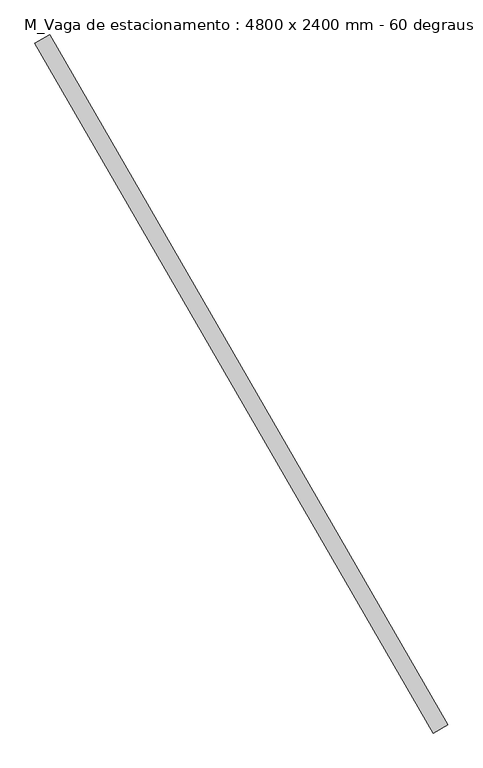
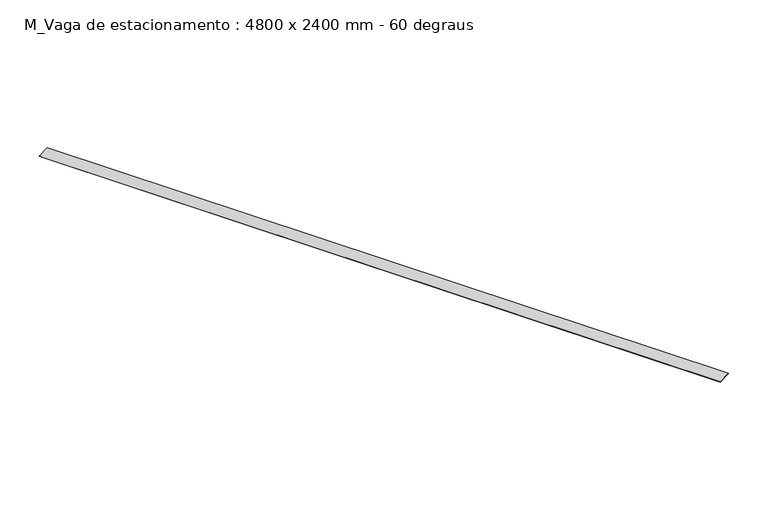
"""IFC4 building model written with IfcOpenShell, lengths in millimetres: proxy geometry, M_Vaga de estacionamento : 4800 x 2400 mm - 60 degraus."""

import ifcopenshell
import ifcopenshell.guid

model = None  # the IFC model being written
_history = None  # IfcOwnerHistory: only IFC2X3 demands one
_inside = {}  # id of a spatial element -> (the spatial element, [elements in it])
_under = {}  # id of a project, library or spatial element -> (it, [spatial elements below it])
_declared = {}  # id of a project -> (the project, [libraries it declares])
_typed = {}  # id of a type object -> (the type object, [elements of that type])
_made_of = {}  # id of a material, layer set ... -> (it, [elements and type objects made of it])


def new_model(schema):
    """Start an empty IFC model of exactly this schema.

    Asked for "IFC4X3", IfcOpenShell would pick the latest addendum, in which some entities
    have other attributes; the version numbers below select the first issue.
    IFC2X3 requires an IfcOwnerHistory on every rooted entity: one is made here for all.
    """
    global model, _history
    if schema == "IFC4X3":
        model = ifcopenshell.file(schema_version=(4, 3, 0, 0))
    else:
        model = ifcopenshell.file(schema=schema)
    _inside.clear()
    _under.clear()
    _declared.clear()
    _typed.clear()
    _made_of.clear()
    _history = None
    if model.schema == "IFC2X3":
        org = make("IfcOrganization", Name="unknown")
        user = make(
            "IfcPersonAndOrganization",
            ThePerson=make("IfcPerson", FamilyName="unknown"),
            TheOrganization=org,
        )
        app = make(
            "IfcApplication",
            ApplicationDeveloper=org,
            Version="unknown",
            ApplicationFullName="unknown",
            ApplicationIdentifier="unknown",
        )
        _history = make(
            "IfcOwnerHistory",
            OwningUser=user,
            OwningApplication=app,
            ChangeAction="ADDED",
            CreationDate=0,
        )
    return model


def make(cls, **values):
    """One entity of the class cls with the attributes given. An attribute that is None is left unset."""
    return model.create_entity(
        cls, **{name: value for name, value in values.items() if value is not None}
    )


def rooted(cls, **values):
    """An entity with a GlobalId (a new one), such as an element, a storey or a relation."""
    return make(cls, GlobalId=ifcopenshell.guid.new(), OwnerHistory=_history, **values)


def si_unit(unit_type, name, prefix=None):
    """IfcSIUnit, for example si_unit("LENGTHUNIT", "METRE", prefix="MILLI")."""
    return make("IfcSIUnit", UnitType=unit_type, Prefix=prefix, Name=name)


def assignment(units):
    """IfcUnitAssignment: the units of a project."""
    return None if units is None else make("IfcUnitAssignment", Units=units)


def point(xyz):
    """IfcCartesianPoint."""
    return None if xyz is None else make("IfcCartesianPoint", Coordinates=xyz)


def direction(xyz):
    """IfcDirection."""
    return None if xyz is None else make("IfcDirection", DirectionRatios=xyz)


def frame(location, z_axis=None, x_axis=None):
    """IfcAxis2Placement3D, a coordinate frame: its origin and axes. An axis left out is left unset."""
    return make(
        "IfcAxis2Placement3D",
        Location=point(location),
        Axis=direction(z_axis),
        RefDirection=direction(x_axis),
    )


def origin():
    """The frame at (0, 0, 0) with its axes left unset."""
    return frame((0.0, 0.0, 0.0))


def origin_with_axes():
    """The frame at (0, 0, 0) with the z axis (0, 0, 1) and the x axis (1, 0, 0) written out."""
    return frame((0.0, 0.0, 0.0), z_axis=(0.0, 0.0, 1.0), x_axis=(1.0, 0.0, 0.0))


def place(relative_to, where):
    """IfcLocalPlacement: puts the frame where relative to a parent placement (None: the world)."""
    return make(
        "IfcLocalPlacement", PlacementRelTo=relative_to, RelativePlacement=where
    )


def context(
    kind, dimensions, precision=None, world=None, true_north=None, identifier=None
):
    """IfcGeometricRepresentationContext, for example the 3D "Model" context."""
    return make(
        "IfcGeometricRepresentationContext",
        ContextIdentifier=identifier,
        ContextType=kind,
        CoordinateSpaceDimension=dimensions,
        Precision=precision,
        WorldCoordinateSystem=world,
        TrueNorth=true_north,
    )


def project(units=None, contexts=None):
    """IfcProject with its units and contexts."""
    return rooted(
        "IfcProject",
        Name="project",
        RepresentationContexts=contexts,
        UnitsInContext=assignment(units),
    )


def spatial(cls, under=None, at=None, **own):
    """A site, building, storey or space (cls), placed at a placement, below another one or the project."""
    s = rooted(cls, ObjectPlacement=at, **own)
    if under is not None:
        _under.setdefault(under.id(), (under, []))[1].append(s)
    return s


def polyline(points):
    """IfcPolyline through the points."""
    return make("IfcPolyline", Points=[point(p) for p in points])


def outline(outer, holes=None, kind="AREA"):
    """IfcArbitraryClosedProfileDef: a profile drawn as a closed curve; with holes, ...WithVoids."""
    if holes is None:
        return make("IfcArbitraryClosedProfileDef", ProfileType=kind, OuterCurve=outer)
    return make(
        "IfcArbitraryProfileDefWithVoids",
        ProfileType=kind,
        OuterCurve=outer,
        InnerCurves=holes,
    )


def extrude(swept, where, along, depth):
    """IfcExtrudedAreaSolid: the profile swept, set in the frame where, extruded along a direction by depth."""
    return make(
        "IfcExtrudedAreaSolid",
        SweptArea=swept,
        Position=where,
        ExtrudedDirection=direction(along),
        Depth=depth,
    )


def shape(context_of_items, identifier, shape_type, items):
    """IfcShapeRepresentation: the items that make up one representation, for example the "Body"."""
    return make(
        "IfcShapeRepresentation",
        ContextOfItems=context_of_items,
        RepresentationIdentifier=identifier,
        RepresentationType=shape_type,
        Items=items,
    )


def source(mapping_origin, context_of_items, identifier, shape_type, items):
    """IfcRepresentationMap: a shape defined once, which mapped items show again and again."""
    return make(
        "IfcRepresentationMap",
        MappingOrigin=mapping_origin,
        MappedRepresentation=shape(context_of_items, identifier, shape_type, items),
    )


def transform(
    local_origin,
    x_axis=None,
    y_axis=None,
    z_axis=None,
    scale=None,
    scale2=None,
    scale3=None,
    uniform=True,
):
    """IfcCartesianTransformationOperator3D, or its non-uniform kind. x_axis, y_axis, z_axis: its Axis1, 2, 3."""
    if uniform:
        return make(
            "IfcCartesianTransformationOperator3D",
            Axis1=direction(x_axis),
            Axis2=direction(y_axis),
            LocalOrigin=point(local_origin),
            Scale=scale,
            Axis3=direction(z_axis),
        )
    return make(
        "IfcCartesianTransformationOperator3DnonUniform",
        Axis1=direction(x_axis),
        Axis2=direction(y_axis),
        LocalOrigin=point(local_origin),
        Scale=scale,
        Axis3=direction(z_axis),
        Scale2=scale2,
        Scale3=scale3,
    )


def mapped(mapping_source, mapping_target):
    """IfcMappedItem: shows the shape of a source again, moved by a transform."""
    return make(
        "IfcMappedItem", MappingSource=mapping_source, MappingTarget=mapping_target
    )


def made_of(thing, what):
    """Note that an element or type object is made of a material, layer set ...; save() writes the relation."""
    if what is not None:
        _made_of.setdefault(what.id(), (what, []))[1].append(thing)
    return thing


def element(
    cls,
    number,
    at=None,
    inside=None,
    cuts=None,
    type_object=None,
    material=None,
    context=None,
    identifier="Body",
    shape_type=None,
    held_by="IfcProductDefinitionShape",
    body=None,
    shapes=None,
    **own,
):
    """One element of the class cls, such as IfcWall. Its Tag is "e" and its number.

    at: its placement. inside: the storey or other place that contains it. cuts: it is an
    opening in that element (IfcRelVoidsElement). A single representation is given by context,
    identifier, shape_type and body (its items); several are given by shapes. held_by: the class
    of the entity that holds the representations. save() writes the other relations.
    """
    e = rooted(cls, Tag="e%d" % number, ObjectPlacement=at, **own)
    if body is not None:
        shapes = [shape(context, identifier, shape_type, body)]
    if shapes is not None:
        e.Representation = make(held_by, Representations=shapes)
    if inside is not None:
        _inside.setdefault(inside.id(), (inside, []))[1].append(e)
    if cuts is not None:
        rooted(
            "IfcRelVoidsElement", RelatingBuildingElement=cuts, RelatedOpeningElement=e
        )
    if type_object is not None:
        _typed.setdefault(type_object.id(), (type_object, []))[1].append(e)
    return made_of(e, material)


def aggregate(whole, parts):
    """IfcRelAggregates: a whole, such as a stair, and the parts it consists of."""
    return rooted("IfcRelAggregates", RelatingObject=whole, RelatedObjects=parts)


def save(model, path):
    """Write the relations noted so far, then the file.

    IfcRelAggregates (storeys below a building ...), IfcRelContainedInSpatialStructure (elements
    in a storey), IfcRelDefinesByType, IfcRelAssociatesMaterial and IfcRelDeclares: one each for
    every whole, place, type object, material and project.
    """
    for whole, parts in _under.values():
        aggregate(whole, parts)
    for where, things in _inside.values():
        rooted(
            "IfcRelContainedInSpatialStructure",
            RelatedElements=things,
            RelatingStructure=where,
        )
    for kind, things in _typed.values():
        rooted("IfcRelDefinesByType", RelatedObjects=things, RelatingType=kind)
    for what, things in _made_of.values():
        rooted("IfcRelAssociatesMaterial", RelatedObjects=things, RelatingMaterial=what)
    for by, libraries in _declared.values():
        rooted("IfcRelDeclares", RelatingContext=by, RelatedDefinitions=libraries)
    model.write(path)


def m_vaga_de_estacionamento_4800_x_2400_mm_60_degraus_5b8ad055(model_context):
    return source(origin(), model_context, "Body", "SweptSolid", [
        extrude(outline(polyline([(-43.9940905, -25.4), (43.9940905, 25.4), (2444.0391595, -4131.6), (2356.0509785, -4182.4), (-43.9940905, -25.4)])), origin_with_axes(), (0.0, 0.0, 1.0), 3.175),
    ])


if __name__ == "__main__":
    model = new_model("IFC4")
    model_context = context("Model", 3, world=origin())
    ifc_project = project(units=[si_unit("LENGTHUNIT", "METRE", prefix="MILLI")], contexts=[model_context])
    site = spatial("IfcSite", under=ifc_project)
    building = spatial("IfcBuilding", under=site)
    placement = place(None, origin())
    m_vaga_de_estacionamento_4800_x_2400_mm_60_degraus_shape = m_vaga_de_estacionamento_4800_x_2400_mm_60_degraus_5b8ad055(model_context)
    element("IfcBuildingElementProxy", 1, Name="M_Vaga de estacionamento : 4800 x 2400 mm - 60 degraus", ObjectType="M_Vaga de estacionamento : 4800 x 2400 mm - 60 degraus", at=placement, inside=building, context=model_context, shape_type="MappedRepresentation", body=[
        mapped(m_vaga_de_estacionamento_4800_x_2400_mm_60_degraus_shape, transform((0.0, 0.0, 0.0), x_axis=(1.0, 0.0, 0.0), y_axis=(0.0, 1.0, 0.0), z_axis=(0.0, 0.0, 1.0))),
    ])
    save(model, "model.ifc")
